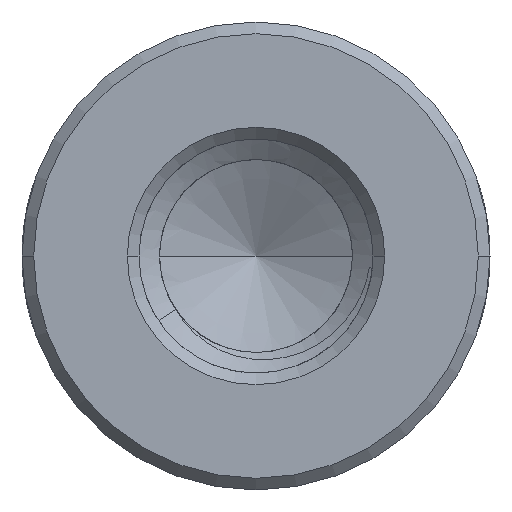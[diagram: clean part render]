
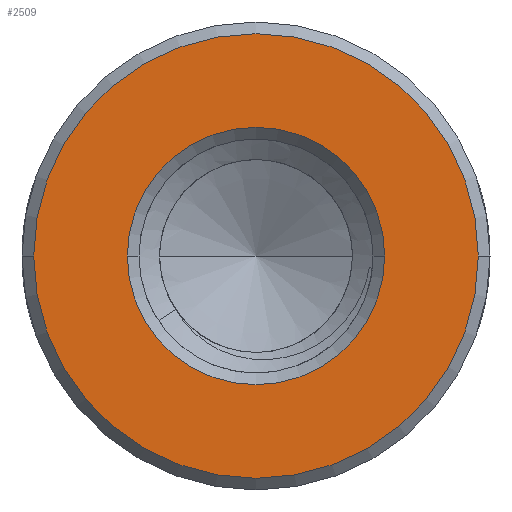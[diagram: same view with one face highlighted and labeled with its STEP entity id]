
A CAD part, front view. The second image highlights one B-rep face of the part: STEP entity #2509.
In plain terms, the highlighted planar face has unit normal (0, -1, 0).
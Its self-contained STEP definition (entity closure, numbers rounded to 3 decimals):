
#1=CARTESIAN_POINT('',(0.,-30.,0.));
#2=DIRECTION('',(0.,-1.,0.));
#3=DIRECTION('',(-1.,0.,0.));
#4=AXIS2_PLACEMENT_3D('',#1,#2,#3);
#6=CARTESIAN_POINT('',(0.,-30.,0.));
#7=DIRECTION('',(0.,-1.,0.));
#8=DIRECTION('',(1.,0.,0.));
#9=AXIS2_PLACEMENT_3D('',#6,#7,#8);
#11=CARTESIAN_POINT('',(0.,-30.,0.));
#12=DIRECTION('',(0.,1.,0.));
#13=DIRECTION('',(-1.,0.,0.));
#14=AXIS2_PLACEMENT_3D('',#11,#12,#13);
#16=CARTESIAN_POINT('',(0.,-30.,0.));
#17=DIRECTION('',(0.,1.,0.));
#18=DIRECTION('',(1.,0.,0.));
#19=AXIS2_PLACEMENT_3D('',#16,#17,#18);
#2347=CARTESIAN_POINT('',(-5.7,-30.,0.));
#2348=CARTESIAN_POINT('',(5.7,-30.,0.));
#2349=VERTEX_POINT('',#2347);
#2350=VERTEX_POINT('',#2348);
#2481=CARTESIAN_POINT('',(-3.3,-30.,0.));
#2482=CARTESIAN_POINT('',(3.3,-30.,0.));
#2483=VERTEX_POINT('',#2481);
#2484=VERTEX_POINT('',#2482);
#2492=CARTESIAN_POINT('',(0.,-30.,0.));
#2493=DIRECTION('',(0.,1.,0.));
#2494=DIRECTION('',(1.,0.,0.));
#2495=AXIS2_PLACEMENT_3D('',#2492,#2493,#2494);
#2496=PLANE('',#2495);
#2498=ORIENTED_EDGE('',*,*,#2497,.F.);
#2500=ORIENTED_EDGE('',*,*,#2499,.F.);
#2501=EDGE_LOOP('',(#2498,#2500));
#2502=FACE_OUTER_BOUND('',#2501,.F.);
#2504=ORIENTED_EDGE('',*,*,#2503,.F.);
#2506=ORIENTED_EDGE('',*,*,#2505,.F.);
#2507=EDGE_LOOP('',(#2504,#2506));
#2508=FACE_BOUND('',#2507,.F.);
#2509=ADVANCED_FACE('',(#2502,#2508),#2496,.F.);
#5=CIRCLE('',#4,5.7);
#10=CIRCLE('',#9,5.7);
#15=CIRCLE('',#14,3.3);
#20=CIRCLE('',#19,3.3);
#2497=EDGE_CURVE('',#2349,#2350,#5,.T.);
#2499=EDGE_CURVE('',#2350,#2349,#10,.T.);
#2503=EDGE_CURVE('',#2483,#2484,#15,.T.);
#2505=EDGE_CURVE('',#2484,#2483,#20,.T.);
